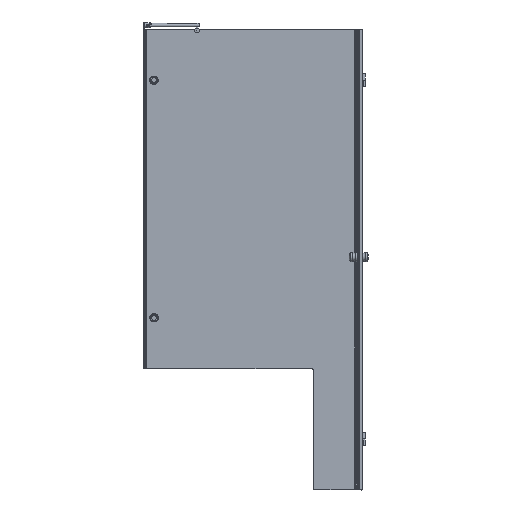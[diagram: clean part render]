
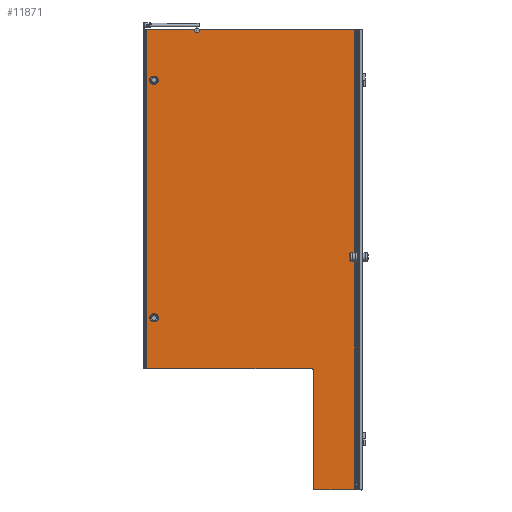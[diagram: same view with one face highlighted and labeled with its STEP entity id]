
A CAD part, left-side view. The second image highlights one B-rep face of the part: STEP entity #11871.
In plain terms, the highlighted planar face has unit normal (-1, 0, 0).
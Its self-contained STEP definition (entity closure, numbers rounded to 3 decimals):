
#122=FACE_BOUND($,#1509,.T.);
#123=FACE_BOUND($,#1510,.T.);
#248=CIRCLE($,#12590,10.);
#257=CIRCLE($,#12612,10.);
#258=CIRCLE($,#12613,2.);
#259=CIRCLE($,#12614,15.);
#260=CIRCLE($,#12615,15.);
#830=FACE_OUTER_BOUND($,#1508,.T.);
#1508=EDGE_LOOP($,(#7655,#7656,#7657,#7658,#7659,#7660,#7661,#7662,#7663,
#7664,#7665));
#1509=EDGE_LOOP($,(#7666));
#1510=EDGE_LOOP($,(#7667));
#2314=LINE($,#17474,#3530);
#2315=LINE($,#17476,#3531);
#2316=LINE($,#17478,#3532);
#2317=LINE($,#17482,#3533);
#2318=LINE($,#17484,#3534);
#2319=LINE($,#17488,#3535);
#2320=LINE($,#17490,#3536);
#2321=LINE($,#17491,#3537);
#3530=VECTOR($,#13918,203.474);
#3531=VECTOR($,#13919,1400.);
#3532=VECTOR($,#13920,684.);
#3533=VECTOR($,#13923,490.);
#3534=VECTOR($,#13924,168.419);
#3535=VECTOR($,#13927,1.019);
#3536=VECTOR($,#13928,1898.);
#3537=VECTOR($,#13929,642.066);
#4730=VERTEX_POINT($,#17269);
#4731=VERTEX_POINT($,#17271);
#4748=VERTEX_POINT($,#17473);
#4749=VERTEX_POINT($,#17475);
#4750=VERTEX_POINT($,#17477);
#4751=VERTEX_POINT($,#17479);
#4752=VERTEX_POINT($,#17481);
#4753=VERTEX_POINT($,#17483);
#4754=VERTEX_POINT($,#17485);
#4755=VERTEX_POINT($,#17487);
#4756=VERTEX_POINT($,#17489);
#4757=VERTEX_POINT($,#17492);
#4758=VERTEX_POINT($,#17494);
#5822=EDGE_CURVE($,#4731,#4730,#248,.T.);
#5846=EDGE_CURVE($,#4730,#4748,#2314,.T.);
#5847=EDGE_CURVE($,#4748,#4749,#2315,.T.);
#5848=EDGE_CURVE($,#4749,#4750,#2316,.T.);
#5849=EDGE_CURVE($,#4751,#4750,#257,.T.);
#5850=EDGE_CURVE($,#4751,#4752,#2317,.T.);
#5851=EDGE_CURVE($,#4753,#4752,#2318,.T.);
#5852=EDGE_CURVE($,#4753,#4754,#258,.T.);
#5853=EDGE_CURVE($,#4754,#4755,#2319,.T.);
#5854=EDGE_CURVE($,#4756,#4755,#2320,.T.);
#5855=EDGE_CURVE($,#4756,#4731,#2321,.T.);
#5856=EDGE_CURVE($,#4757,#4757,#259,.T.);
#5857=EDGE_CURVE($,#4758,#4758,#260,.T.);
#7655=ORIENTED_EDGE($,*,*,#5822,.T.);
#7656=ORIENTED_EDGE($,*,*,#5846,.T.);
#7657=ORIENTED_EDGE($,*,*,#5847,.T.);
#7658=ORIENTED_EDGE($,*,*,#5848,.T.);
#7659=ORIENTED_EDGE($,*,*,#5849,.F.);
#7660=ORIENTED_EDGE($,*,*,#5850,.T.);
#7661=ORIENTED_EDGE($,*,*,#5851,.F.);
#7662=ORIENTED_EDGE($,*,*,#5852,.T.);
#7663=ORIENTED_EDGE($,*,*,#5853,.T.);
#7664=ORIENTED_EDGE($,*,*,#5854,.F.);
#7665=ORIENTED_EDGE($,*,*,#5855,.T.);
#7666=ORIENTED_EDGE($,*,*,#5856,.T.);
#7667=ORIENTED_EDGE($,*,*,#5857,.T.);
#10677=PLANE($,#12611);
#11871=ADVANCED_FACE($,(#830,#122,#123),#10677,.T.);
#12590=AXIS2_PLACEMENT_3D($,#17272,#13867,#13868);
#12611=AXIS2_PLACEMENT_3D($,#17472,#13916,#13917);
#12612=AXIS2_PLACEMENT_3D($,#17480,#13921,#13922);
#12613=AXIS2_PLACEMENT_3D($,#17486,#13925,#13926);
#12614=AXIS2_PLACEMENT_3D($,#17493,#13930,#13931);
#12615=AXIS2_PLACEMENT_3D($,#17495,#13932,#13933);
#13867=DIRECTION('center_axis',(1.,0.,0.));
#13868=DIRECTION('ref_axis',(0.,0.597,0.802));
#13916=DIRECTION('center_axis',(-1.,0.,0.));
#13917=DIRECTION('ref_axis',(0.,1.,0.));
#13918=DIRECTION($,(0.,1.,0.));
#13919=DIRECTION($,(0.,0.,-1.));
#13920=DIRECTION($,(0.,-1.,0.));
#13921=DIRECTION('center_axis',(-1.,0.,0.));
#13922=DIRECTION('ref_axis',(0.,-0.707,0.707));
#13923=DIRECTION($,(0.,0.,-1.));
#13924=DIRECTION($,(0.,1.,0.));
#13925=DIRECTION('center_axis',(1.,0.,0.));
#13926=DIRECTION('ref_axis',(0.,0.707,0.707));
#13927=DIRECTION($,(0.,1.,0.));
#13928=DIRECTION($,(0.,0.,-1.));
#13929=DIRECTION($,(0.,1.,0.));
#13930=DIRECTION('center_axis',(1.,0.,0.));
#13931=DIRECTION('ref_axis',(0.,-1.,0.));
#13932=DIRECTION('center_axis',(1.,0.,0.));
#13933=DIRECTION('ref_axis',(0.,-1.,0.));
#17269=CARTESIAN_POINT('',(1217.162,635.482,1385.944));
#17271=CARTESIAN_POINT('',(1217.162,617.622,1385.944));
#17272=CARTESIAN_POINT('Origin',(1217.162,626.552,1381.444));
#17472=CARTESIAN_POINT('Origin',(1217.162,-29.044,1385.944));
#17473=CARTESIAN_POINT('',(1217.162,838.956,1385.944));
#17474=CARTESIAN_POINT($,(1217.162,-29.044,1385.944));
#17475=CARTESIAN_POINT('',(1217.162,838.956,-14.056));
#17476=CARTESIAN_POINT($,(1217.162,838.956,1385.944));
#17477=CARTESIAN_POINT('',(1217.162,154.956,-14.056));
#17478=CARTESIAN_POINT($,(1217.162,57.956,-14.056));
#17479=CARTESIAN_POINT('',(1217.162,144.956,-24.056));
#17480=CARTESIAN_POINT('Origin',(1217.162,154.956,-24.056));
#17481=CARTESIAN_POINT('',(1217.162,144.956,-514.056));
#17482=CARTESIAN_POINT($,(1217.162,144.956,435.944));
#17483=CARTESIAN_POINT('',(1217.162,-23.463,-514.056));
#17484=CARTESIAN_POINT($,(1217.162,-29.044,-514.056));
#17485=CARTESIAN_POINT('',(1217.162,-25.463,-512.056));
#17486=CARTESIAN_POINT('Origin',(1217.162,-25.463,-514.056));
#17487=CARTESIAN_POINT('',(1217.162,-24.444,-512.056));
#17488=CARTESIAN_POINT($,(1217.162,-28.452,-512.056));
#17489=CARTESIAN_POINT('',(1217.162,-24.444,1385.944));
#17490=CARTESIAN_POINT($,(1217.162,-24.444,1385.944));
#17491=CARTESIAN_POINT($,(1217.162,-29.044,1385.944));
#17492=CARTESIAN_POINT('',(1217.162,818.956,195.944));
#17493=CARTESIAN_POINT('Origin',(1217.162,803.956,195.944));
#17494=CARTESIAN_POINT('',(1217.162,818.956,1175.944));
#17495=CARTESIAN_POINT('Origin',(1217.162,803.956,1175.944));
